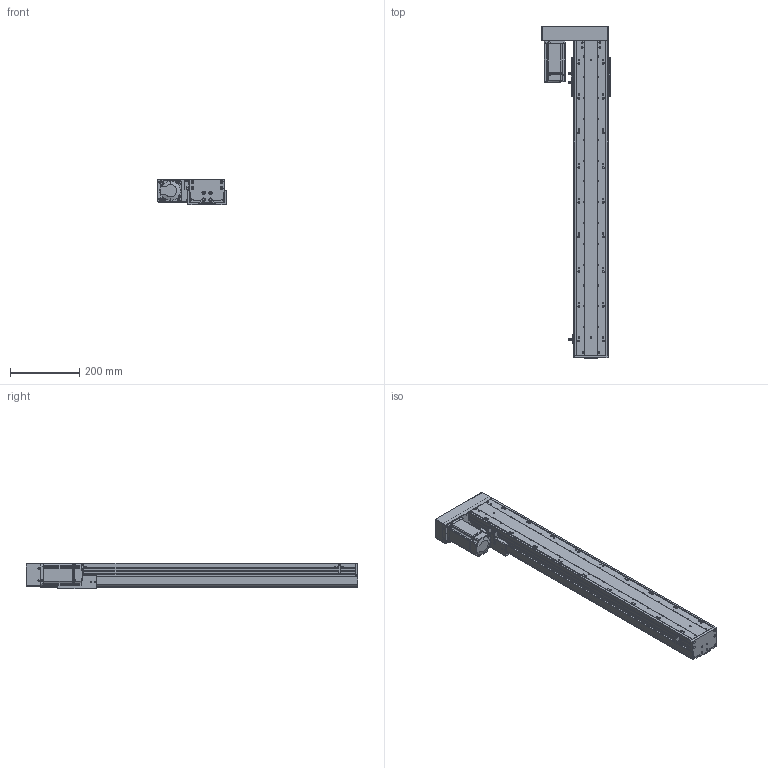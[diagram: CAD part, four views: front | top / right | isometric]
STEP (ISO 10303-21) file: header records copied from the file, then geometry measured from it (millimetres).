
FILE_DESCRIPTION (( 'STEP AP203' ), '1' );
FILE_NAME ('RY100FBS-L1610-300-LK(15双轨）.SLDASM_700.step', '2021-02-23T01:49:29', ( '盈信电脑' ), ( '东莞市道滘镇水果街19号' ), 'SwSTEP 2.0', 'SolidWorks 2012', '' );
FILE_SCHEMA (( 'CONFIG_CONTROL_DESIGN' ));
Length unit declared in the file: millimetre
Products named in the file (14): RY100FBS-L1610-300-LK(15双轨）.SLDASM_700; 侂狟400W侜督萇儂; RY100FBS-后盖板(15双轨）; RY100FBS-酘衵殏萇儂啣; RY100FBS-酘衵殏萇儂欶; 15; 覜茼ん672; RY100FBS-铝滑块（16丝杆）; RY100FBS-嫖萇覜茼え; RY100FBS-转折支撑座（15双轨）; 滅袉蝶18-24; 滅袉蝶18-15; RY100FBS-300蛌殏奻裔啣-LK_700; RY100FBS-300蛌殏菁釱-LK_700
Assembly tree (15 placements, depth 3):
  RY100FBS-L1610-300-LK(15双轨）.SLDASM_700
    RY100FBS-300蛌殏菁釱-LK_700
    RY100FBS-300蛌殏奻裔啣-LK_700
    RY100FBS-转折支撑座（15双轨）
    滅袉蝶18-24
    滅袉蝶18-15
    RY100FBS-铝滑块（16丝杆）
    覜茼ん672  x3
    RY100FBS-嫖萇覜茼え
    侂狟400W侜督萇儂
      15
    RY100FBS-后盖板(15双轨）
    RY100FBS-酘衵殏萇儂啣
    RY100FBS-酘衵殏萇儂欶
Bounding box: 198.75 x 957 x 74 mm (x, y, z)
Volume: 2579301.8 mm3; surface area: 949408.6 mm2
Topology: 14 solids, 14 shells, 1655 faces, 4700 edges, 3050 vertices
Faces by surface type: cylinder 803, plane 700, cone 126, bspline 26
Entity records: 52359 total; most frequent: CARTESIAN_POINT 11104, DIRECTION 8419, ORIENTED_EDGE 8276, EDGE_CURVE 4138, AXIS2_PLACEMENT_3D 3049, VERTEX_POINT 2730, VECTOR 2321, LINE 2321
